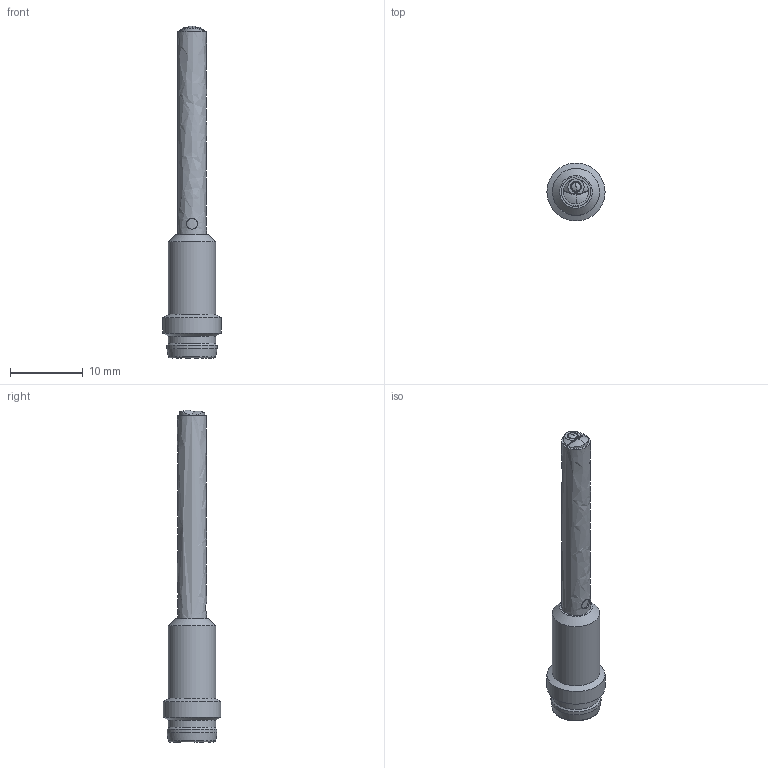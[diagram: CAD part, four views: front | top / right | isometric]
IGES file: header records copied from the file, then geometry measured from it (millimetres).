
Global section: file name: 153-13579_FT 04 R-PSL-M3; native system: Autodesk Inventor 2018; preprocessor: unknown; author: sgonin; date: 20190227.091322; units: millimetre
Bounding box: 8 x 7.99 x 45.76 mm (x, y, z)
Volume: 840.7 mm3; surface area: 932.6 mm2
Topology: 1 solids, 1 shells, 51 faces, 137 edges, 93 vertices
Faces by surface type: bspline 51
